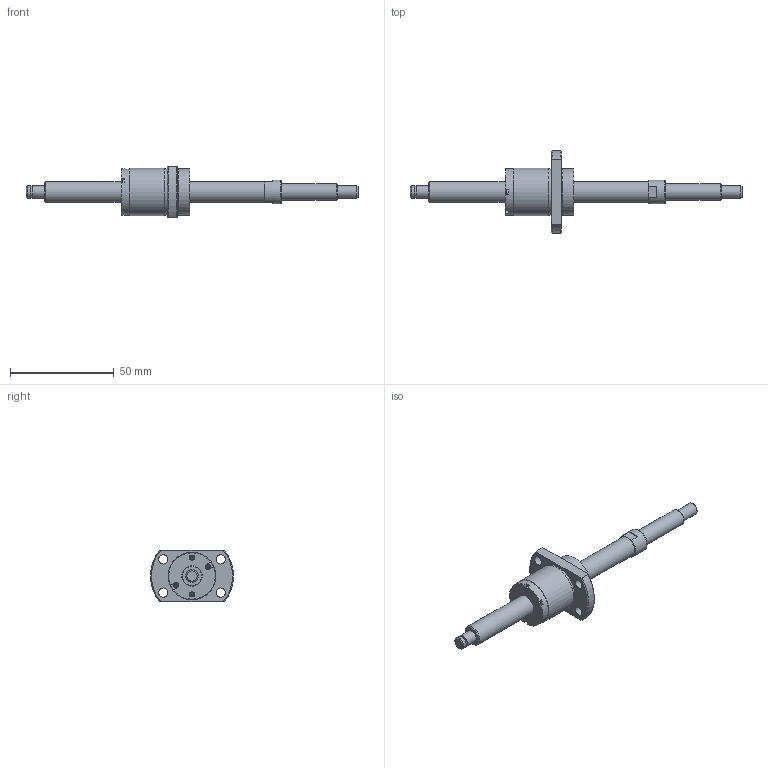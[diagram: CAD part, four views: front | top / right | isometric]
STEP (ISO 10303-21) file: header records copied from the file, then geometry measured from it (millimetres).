
FILE_DESCRIPTION(/* description */ ('STEP AP214'),/* implementation_level */ '2;1');
FILE_NAME(/* name */ 'SG1015-098R160C5B0X(37)',/* time_stamp */ '2026-07-24T15:17:57+02:00',/* author */ ('License CC BY-ND 4.0'),/* organization */ ('CADENAS'),/* preprocessor_version */ 'ST-DEVELOPER v20',/* originating_system */ 'PARTsolutions',/* authorisation */ ' ');
FILE_SCHEMA (('AUTOMOTIVE_DESIGN {1 0 10303 214 3 1 1}'));
Length unit declared in the file: millimetre
Products named in the file (3): SG1015-098R160C5B0X(37); SG1015-98R160C5B_shaft; SG1015 C5_nut
Assembly tree (2 placements, depth 2):
  SG1015-098R160C5B0X(37)
    SG1015-98R160C5B_shaft
    SG1015 C5_nut
Bounding box: 160 x 40 x 25 mm (x, y, z)
Volume: 24157.5 mm3; surface area: 10393 mm2
Topology: 2 solids, 2 shells, 107 faces, 242 edges, 157 vertices
Faces by surface type: plane 66, cylinder 27, cone 13, torus 1
Full cylindrical faces by diameter (mm): 2.25 x4, 4.5 x4, 5.7 x1, 6 x3, 8 x1, 10 x2, 11.5 x1, 22.5 x3, 23 x2
Entity records: 2921 total; most frequent: DIRECTION 500, CARTESIAN_POINT 498, ORIENTED_EDGE 418, EDGE_CURVE 209, AXIS2_PLACEMENT_3D 189, EDGE_LOOP 166, FACE_BOUND 166, VERTEX_POINT 155
